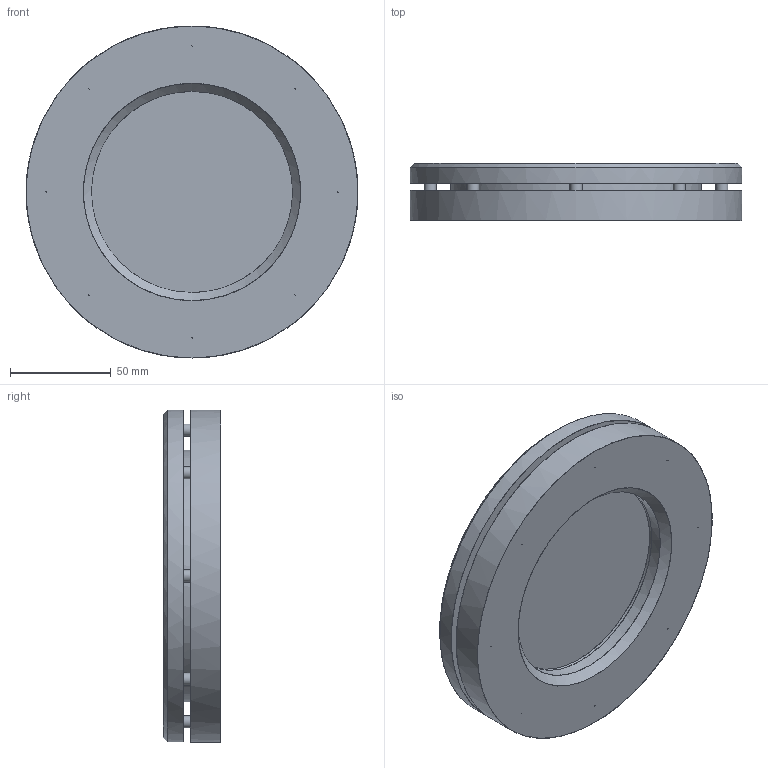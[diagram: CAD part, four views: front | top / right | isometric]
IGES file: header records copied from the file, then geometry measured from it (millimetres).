
Start section: C
Global section: file name: Armatur 28120 drucklos DN 80.igs; native system: By Siemens PLM Incorporated; preprocessor: XPlus GENERIC/IGES 18.0.17; author: Author; organization: Title; date: 20160118.153551; units: millimetre
Bounding box: 164.89 x 28.5 x 165 mm (x, y, z)
Surface area: 132120.2 mm2 (no closed solid volume)
Topology: 0 solids, 0 shells, 332 faces, 1796 edges, 1788 vertices
Faces by surface type: bspline 332
